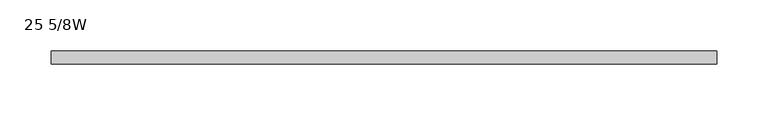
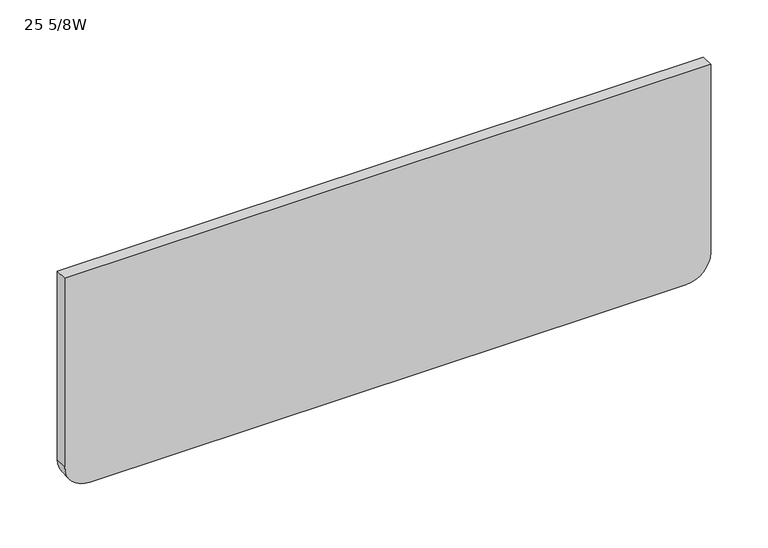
"""IFC4 building model written with IfcOpenShell, lengths in millimetres: furniture geometry, Steelcase - Groupwork - Table Component - Modesty Panel : 25 5/8W."""

from ifc_helpers import new_model, si_unit, point, frame, frame_2d, origin, place, context, project, spatial, polyline, circle_curve, trimmed, segment, composite_curve, outline, extrude, source, transform, mapped, element, save


def furniture_25_5_8w_bb100e75(model_context):
    return source(origin(), model_context, "Body", "SweptSolid", [
        extrude(outline(composite_curve([segment(polyline([(497.8399855, 1203.5116774), (698.5000242, 1203.5116774), (698.5000242, 552.0016774), (497.8399855, 552.0016774)]), True, "CONTINUOUS"), segment(trimmed(circle_curve(frame_2d((497.8399855, 577.4016774)), 25.4), [point((497.8399855, 552.0016774))], [point((472.4399855, 577.4016774))], False, "CARTESIAN"), True, "CONTINUOUS"), segment(polyline([(472.4399855, 577.4016774), (472.4399855, 1178.1116774)]), True, "CONTINUOUS"), segment(trimmed(circle_curve(frame_2d((497.8399855, 1178.1116774)), 25.4), [point((472.4399855, 1178.1116774))], [point((497.8399855, 1203.5116774))], False, "CARTESIAN"), True, "CONTINUOUS")], self_intersect=False)), frame((0.0, -585.8617631, 0.0), z_axis=(0.0, 1.0, 0.0), x_axis=(0.0, 0.0, 1.0)), (0.0, 0.0, 1.0), 12.7),
    ])


if __name__ == "__main__":
    model = new_model("IFC4")
    model_context = context("Model", 3, world=origin())
    ifc_project = project(units=[si_unit("LENGTHUNIT", "METRE", prefix="MILLI")], contexts=[model_context])
    site = spatial("IfcSite", under=ifc_project)
    building = spatial("IfcBuilding", under=site)
    placement = place(None, origin())
    furniture_25_5_8w_shape = furniture_25_5_8w_bb100e75(model_context)
    element("IfcFurniture", 1, ObjectType="Steelcase - Groupwork - Table Component - Modesty Panel : 25 5/8W", at=placement, inside=building, context=model_context, shape_type="MappedRepresentation", body=[
        mapped(furniture_25_5_8w_shape, transform((0.0, 0.0, 0.0), x_axis=(1.0, 0.0, 0.0), y_axis=(0.0, 1.0, 0.0), z_axis=(0.0, 0.0, 1.0))),
    ])
    save(model, "model.ifc")
